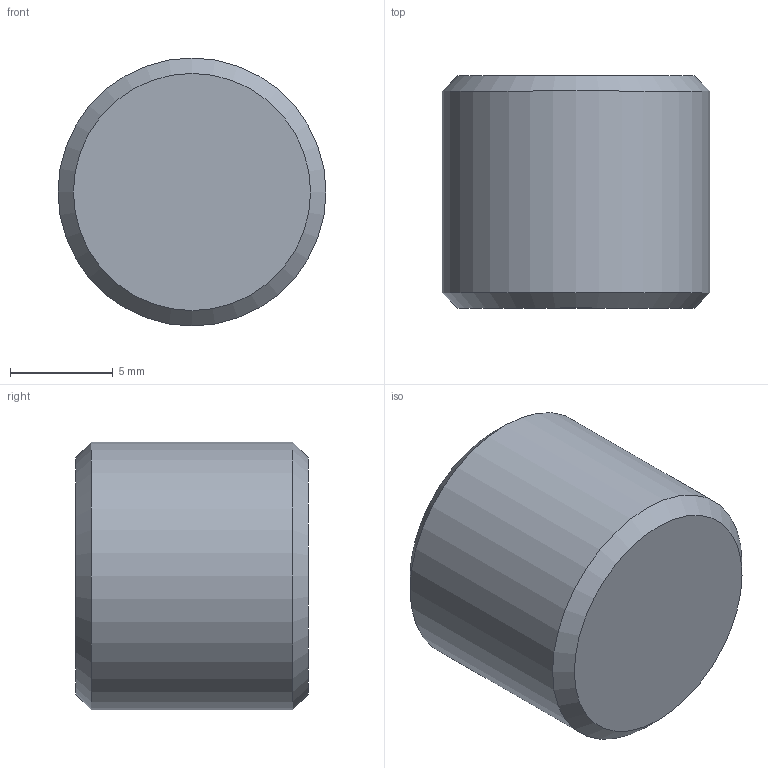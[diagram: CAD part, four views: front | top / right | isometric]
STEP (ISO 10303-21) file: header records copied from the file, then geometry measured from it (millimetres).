
FILE_DESCRIPTION(/* description */ (''),/* implementation_level */ '2;1');
FILE_NAME(/* name */ 'C:/Users/drich/Desktop/cad/Plugs/NPT Pipe Plugs/Heavy Duty/XTBF-14 v1.step',/* time_stamp */ '2020-01-10T11:43:03-06:00',/* author */ (''),/* organization */ (''),/* preprocessor_version */ 'ST-DEVELOPER v18',/* originating_system */ 'Autodesk Translation Framework v8.12.0.6',/* authorisation */ '');
FILE_SCHEMA (('AUTOMOTIVE_DESIGN { 1 0 10303 214 3 1 1 }'));
Length unit declared in the file: inch
Products named in the file (1): XTBF-14
Bounding box: 13.03 x 11.3 x 13.03 mm (x, y, z)
Volume: 1243.8 mm3; surface area: 837.7 mm2
Topology: 1 solids, 1 shells, 13 faces, 35 edges, 25 vertices
Faces by surface type: plane 9, cone 3, cylinder 1
Full cylindrical faces by diameter (mm): 13.032 x1
Entity records: 446 total; most frequent: CARTESIAN_POINT 98, ORIENTED_EDGE 70, DIRECTION 58, EDGE_CURVE 35, VERTEX_POINT 25, AXIS2_PLACEMENT_3D 21, LINE 16, VECTOR 16
